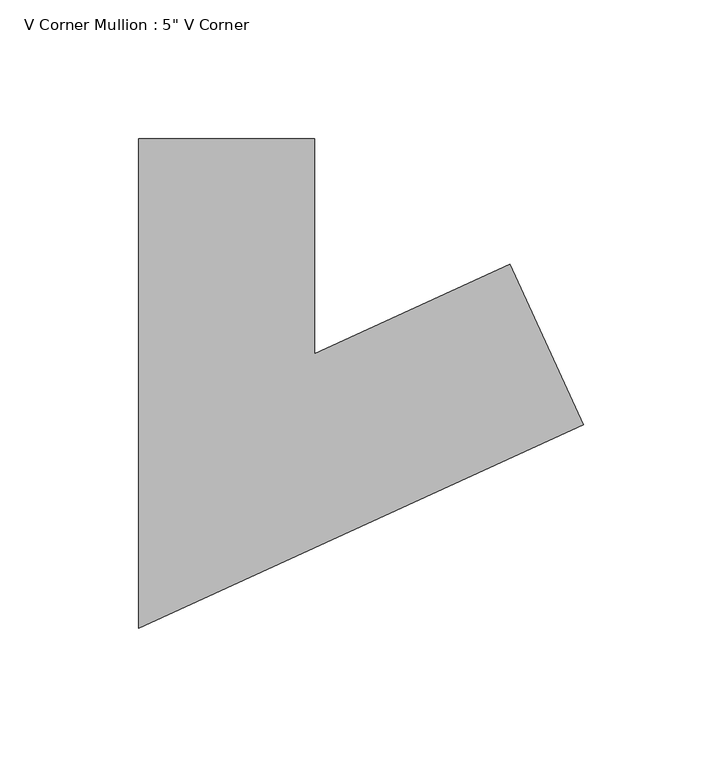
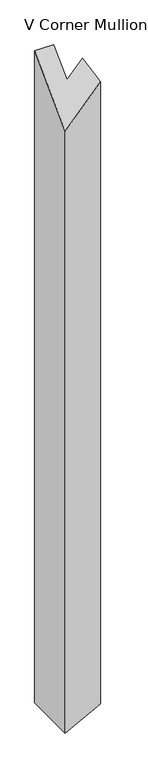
"""IFC4 building model written with IfcOpenShell, lengths in millimetres: member geometry."""

from ifc_helpers import new_model, si_unit, origin, place, context, project, spatial, faceted_brep, source, transform, mapped, element, save


def member_d42e4331(model_context):
    return source(origin(), model_context, "Body", "Brep", [
        faceted_brep([(61.49523, 18.2208415, 18.2208415), (87.9205542, -39.5195451, -39.5195451), (87.9205542, -39.5195451, -2237.4899633), (61.49523, 18.2208415, -2237.8855101), (-9.0228811, -14.0523047, -14.0523047), (-9.0228811, -14.0523047, -2238.9410586), (-9.0228811, 63.5, 63.5), (-9.0228811, 63.5, -2238.9410586), (-72.5228811, 63.5, 63.5), (-72.5228811, 63.5, -2239.8915568), (-72.5228811, -112.9476953, -112.9476953), (-72.5228811, -112.9476953, -2239.8915568)], [[[0, 1, 2, 3]], [[4, 0, 3, 5]], [[6, 4, 5, 7]], [[8, 6, 7, 9]], [[10, 8, 9, 11]], [[1, 10, 11, 2]], [[1, 0, 4, 6, 8, 10]], [[2, 11, 9, 7, 5, 3]]]),
    ])


if __name__ == "__main__":
    model = new_model("IFC4")
    model_context = context("Model", 3, world=origin())
    ifc_project = project(units=[si_unit("LENGTHUNIT", "METRE", prefix="MILLI")], contexts=[model_context])
    site = spatial("IfcSite", under=ifc_project)
    building = spatial("IfcBuilding", under=site)
    placement = place(None, origin())
    member_shape = member_d42e4331(model_context)
    element("IfcMember", 1, ObjectType="V Corner Mullion : 5\" V Corner", at=placement, inside=building, context=model_context, shape_type="MappedRepresentation", body=[
        mapped(member_shape, transform((0.0, 0.0, 0.0), x_axis=(1.0, 0.0, 0.0), y_axis=(0.0, 1.0, 0.0), z_axis=(0.0, 0.0, 1.0))),
    ])
    save(model, "model.ifc")
